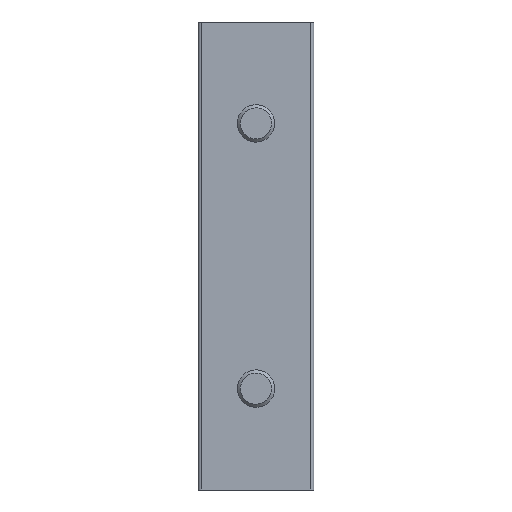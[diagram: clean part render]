
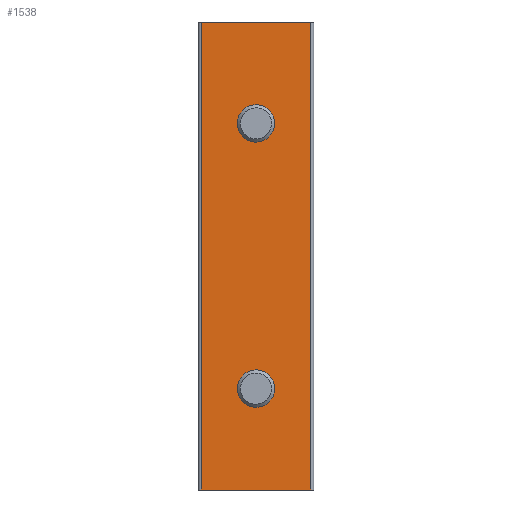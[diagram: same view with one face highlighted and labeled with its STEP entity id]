
A CAD part, front view. The second image highlights one B-rep face of the part: STEP entity #1538.
In plain terms, the highlighted planar face has unit normal (0, -1, 0).
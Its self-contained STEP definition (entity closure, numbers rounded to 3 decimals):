
#44 = ORIENTED_EDGE ( 'NONE', *, *, #1651, .T. ) ;
#94 = DIRECTION ( 'NONE',  ( 0., 0., -1. ) ) ;
#100 = AXIS2_PLACEMENT_3D ( 'NONE', #702, #855, #1174 ) ;
#115 = ORIENTED_EDGE ( 'NONE', *, *, #1880, .T. ) ;
#160 = CARTESIAN_POINT ( 'NONE',  ( 18.5, 0., 37.553 ) ) ;
#219 = CARTESIAN_POINT ( 'NONE',  ( 18.5, 0., 32.5 ) ) ;
#237 = DIRECTION ( 'NONE',  ( 1., 0., 0. ) ) ;
#329 = VERTEX_POINT ( 'NONE', #631 ) ;
#473 = EDGE_CURVE ( 'NONE', #643, #643, #992, .T. ) ;
#517 = FACE_OUTER_BOUND ( 'NONE', #1784, .T. ) ;
#522 = DIRECTION ( 'NONE',  ( 0., 0., 1. ) ) ;
#527 = CARTESIAN_POINT ( 'NONE',  ( 37., 0., 0. ) ) ;
#574 = CARTESIAN_POINT ( 'NONE',  ( 1., 0., 150. ) ) ;
#612 = AXIS2_PLACEMENT_3D ( 'NONE', #219, #1463, #522 ) ;
#631 = CARTESIAN_POINT ( 'NONE',  ( 36., 0., 0. ) ) ;
#643 = VERTEX_POINT ( 'NONE', #160 ) ;
#702 = CARTESIAN_POINT ( 'NONE',  ( 18.5, 0., 117.5 ) ) ;
#712 = CIRCLE ( 'NONE', #100, 5.053 ) ;
#726 = DIRECTION ( 'NONE',  ( -1., 0., 0. ) ) ;
#731 = CARTESIAN_POINT ( 'NONE',  ( 1., 0., 0. ) ) ;
#734 = CARTESIAN_POINT ( 'NONE',  ( 1., 0., 0. ) ) ;
#769 = FACE_BOUND ( 'NONE', #1198, .T. ) ;
#789 = VECTOR ( 'NONE', #94, 1000. ) ;
#855 = DIRECTION ( 'NONE',  ( 0., 1., 0. ) ) ;
#903 = LINE ( 'NONE', #527, #1692 ) ;
#945 = CARTESIAN_POINT ( 'NONE',  ( 18.5, 0., 122.553 ) ) ;
#946 = CARTESIAN_POINT ( 'NONE',  ( 37., 0., 0. ) ) ;
#952 = ORIENTED_EDGE ( 'NONE', *, *, #1853, .T. ) ;
#981 = LINE ( 'NONE', #1913, #1297 ) ;
#989 = CARTESIAN_POINT ( 'NONE',  ( 36., 0., 150. ) ) ;
#992 = CIRCLE ( 'NONE', #612, 5.053 ) ;
#993 = VERTEX_POINT ( 'NONE', #989 ) ;
#1079 = EDGE_CURVE ( 'NONE', #1296, #1296, #712, .T. ) ;
#1145 = AXIS2_PLACEMENT_3D ( 'NONE', #946, #1747, #1904 ) ;
#1174 = DIRECTION ( 'NONE',  ( 0., 0., 1. ) ) ;
#1198 = EDGE_LOOP ( 'NONE', ( #1810 ) ) ;
#1231 = VERTEX_POINT ( 'NONE', #734 ) ;
#1296 = VERTEX_POINT ( 'NONE', #945 ) ;
#1297 = VECTOR ( 'NONE', #1730, 1000. ) ;
#1365 = VERTEX_POINT ( 'NONE', #574 ) ;
#1422 = LINE ( 'NONE', #731, #789 ) ;
#1448 = PLANE ( 'NONE',  #1145 ) ;
#1463 = DIRECTION ( 'NONE',  ( 0., 1., 0. ) ) ;
#1498 = LINE ( 'NONE', #1511, #1958 ) ;
#1511 = CARTESIAN_POINT ( 'NONE',  ( 37., 0., 150. ) ) ;
#1538 = ADVANCED_FACE ( 'NONE', ( #769, #2013, #517 ), #1448, .T. ) ;
#1540 = EDGE_CURVE ( 'NONE', #329, #993, #981, .T. ) ;
#1638 = EDGE_LOOP ( 'NONE', ( #1878 ) ) ;
#1651 = EDGE_CURVE ( 'NONE', #1231, #329, #903, .T. ) ;
#1692 = VECTOR ( 'NONE', #237, 1000. ) ;
#1730 = DIRECTION ( 'NONE',  ( 0., 0., 1. ) ) ;
#1747 = DIRECTION ( 'NONE',  ( 0., -1., 0. ) ) ;
#1784 = EDGE_LOOP ( 'NONE', ( #952, #115, #44, #1921 ) ) ;
#1810 = ORIENTED_EDGE ( 'NONE', *, *, #1079, .T. ) ;
#1853 = EDGE_CURVE ( 'NONE', #993, #1365, #1498, .T. ) ;
#1878 = ORIENTED_EDGE ( 'NONE', *, *, #473, .T. ) ;
#1880 = EDGE_CURVE ( 'NONE', #1365, #1231, #1422, .T. ) ;
#1904 = DIRECTION ( 'NONE',  ( 0., 0., -1. ) ) ;
#1913 = CARTESIAN_POINT ( 'NONE',  ( 36., 0., 0. ) ) ;
#1921 = ORIENTED_EDGE ( 'NONE', *, *, #1540, .T. ) ;
#1958 = VECTOR ( 'NONE', #726, 1000. ) ;
#2013 = FACE_BOUND ( 'NONE', #1638, .T. ) ;
